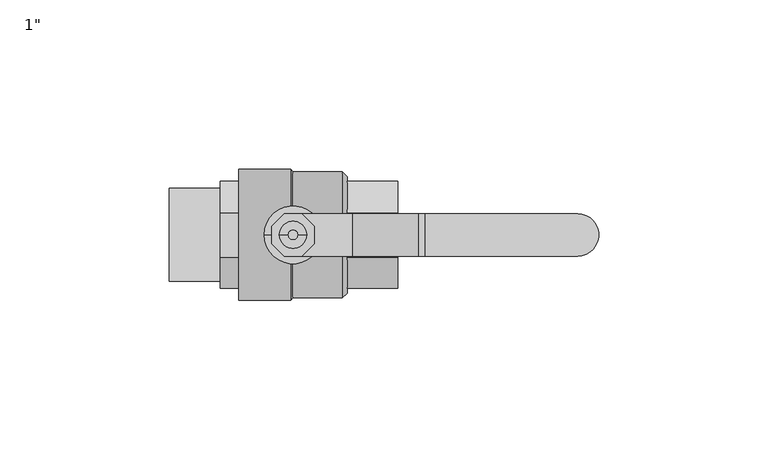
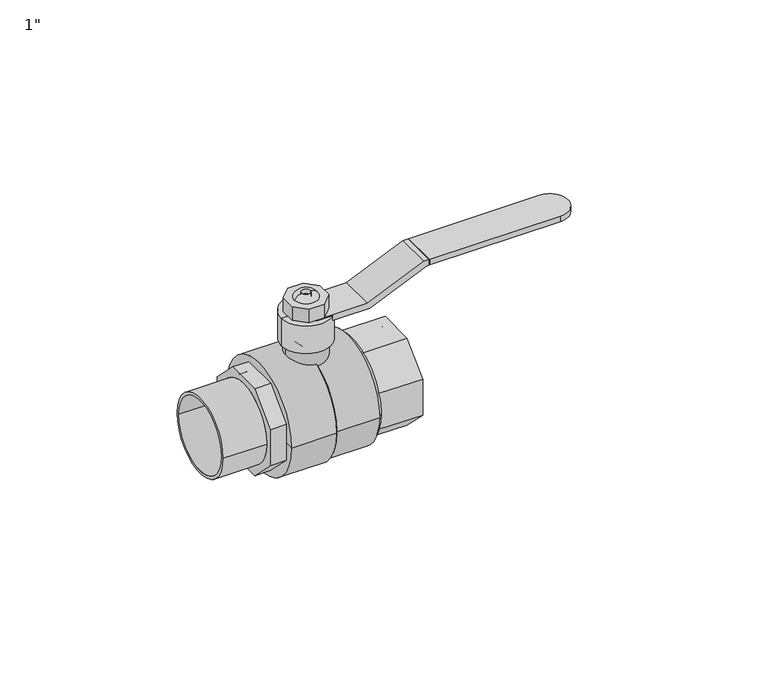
"""IFC4 building model written with IfcOpenShell, lengths in millimetres: pipe fitting geometry."""

from ifc_helpers import new_model, si_unit, point, frame, frame_2d, origin, origin_with_axes, origin_2d, place, context, project, spatial, polyline, circle_curve, ellipse_curve, trimmed, segment, composite_curve, outline, extrude, source, transform, mapped, element, save
from ifc_brep_helpers import plane_surface, cylinder_surface, revolved_surface, advanced_brep


def pipe_fitting_f4c530a4(model_context):
    return source(origin(), model_context, "Body", "SolidModel", [
        extrude(outline(composite_curve([segment(trimmed(circle_curve(origin_2d(), 13.7), [point((13.7, 0.0))], [point((-13.7, 0.0))], False, "CARTESIAN"), True, "CONTINUOUS"), segment(trimmed(circle_curve(origin_2d(), 13.7), [point((-13.7, 0.0))], [point((13.7, 0.0))], False, "CARTESIAN"), True, "CONTINUOUS")], self_intersect=False), holes=[composite_curve([segment(trimmed(circle_curve(origin_2d(), 12.7), [point((12.7, 0.0))], [point((-12.7, 0.0))], True, "CARTESIAN"), True, "CONTINUOUS"), segment(trimmed(circle_curve(origin_2d(), 12.7), [point((-12.7, 0.0))], [point((12.7, 0.0))], True, "CARTESIAN"), True, "CONTINUOUS")], self_intersect=False)]), frame((-36.5, 0.0, 0.0), z_axis=(1.0, 0.0, 0.0), x_axis=(0.0, 1.0, 0.0)), (0.0, 0.0, 1.0), 15.0),
        advanced_brep(
        [(1.5, 0.0, 38.0), (-1.5, 0.0, 38.0), (-4.0, 0.0, 38.0), (4.0, 0.0, 38.0), (1.5, 0.0, 39.5), (-1.5, 0.0, 39.5)],
        [
            (0, 1, circle_curve(frame((0.0, 0.0, 38.0), z_axis=(0.0, 0.0, 1.0), x_axis=(-1.0, 0.0, 0.0)), 1.5)),
            (1, 2),
            (2, 3, circle_curve(frame((0.0, 0.0, 38.0), z_axis=(0.0, 0.0, -1.0), x_axis=(-1.0, 0.0, 0.0)), 4.0)),
            (3, 0),
            (1, 0, circle_curve(frame((0.0, 0.0, 38.0), z_axis=(0.0, 0.0, 1.0), x_axis=(-1.0, 0.0, 0.0)), 1.5)),
            (3, 2, circle_curve(frame((0.0, 0.0, 38.0), z_axis=(0.0, 0.0, -1.0), x_axis=(-1.0, 0.0, 0.0)), 4.0)),
            (4, 5, circle_curve(frame((0.0, 0.0, 39.5), z_axis=(0.0, 0.0, 1.0), x_axis=(-1.0, 0.0, 0.0)), 1.5)),
            (5, 1),
            (0, 4),
            (5, 4, circle_curve(frame((0.0, 0.0, 39.5), z_axis=(0.0, 0.0, 1.0), x_axis=(-1.0, 0.0, 0.0)), 1.5)),
            (2, 5, circle_curve(frame((-1.6606207, 0.0, 36.9343679), z_axis=(0.0, 1.0, 0.0), x_axis=(1.0, 0.0, 0.0)), 2.570655)),
            (4, 3, circle_curve(frame((1.6606207, 0.0, 36.9343679), z_axis=(0.0, 1.0, 0.0), x_axis=(-1.0, 0.0, 0.0)), 2.570655)),
        ],
        [
            plane_surface(frame((0.0, 0.0, 38.0), z_axis=(0.0, 0.0, -1.0), x_axis=(-1.0, 0.0, 0.0))),
            revolved_surface(polyline([(-1.5, 0.0, 38.0), (-1.5, 0.0, 39.5)]), (0.0, 0.0, 2223.8150031), (0.0, 0.0, -1.0)),
            revolved_surface(trimmed(ellipse_curve(frame((-1.6606207, 0.0, 36.9343679), z_axis=(0.0, -1.0, 0.0), x_axis=(1.0, 0.0, 0.0)), 2.570655, 2.570655), [point((-1.5, 0.0, 39.5))], [point((-4.0, 0.0, 38.0))], True, "CARTESIAN"), (0.0, 0.0, 2223.8150031), (0.0, 0.0, -1.0)),
        ],
        [
            (0, [[1, 2, 3, 4]]),
            (0, [[5, -4, 6, -2]]),
            (1, [[7, 8, -1, 9]]),
            (1, [[10, -9, -5, -8]]),
            (2, [[-3, 11, -7, 12]]),
            (2, [[-6, -12, -10, -11]]),
        ],
    ),
        extrude(outline(polyline([(-6.2769553, 2.6), (-2.6, 6.2769553), (2.6, 6.2769553), (6.2769553, 2.6), (6.2769553, -2.6), (2.6, -6.2769553), (-2.6, -6.2769553), (-6.2769553, -2.6), (-6.2769553, 2.6)])), frame((0.0, 0.0, 33.0), z_axis=(0.0, 0.0, 1.0), x_axis=(1.0, 0.0, 0.0)), (0.0, 0.0, 1.0), 5.0),
        extrude(outline(composite_curve([segment(trimmed(circle_curve(frame_2d((84.02, 0.0)), 6.25), [point((84.02, 6.25))], [point((84.02, -6.25))], False, "CARTESIAN"), True, "CONTINUOUS"), segment(polyline([(84.02, -6.25), (39.02, -6.25), (39.02, 6.25), (84.02, 6.25)]), True, "CONTINUOUS")], self_intersect=False)), frame((0.0, 0.0, 39.5), z_axis=(0.0, 0.0, 1.0), x_axis=(1.0, 0.0, 0.0)), (0.0, 0.0, 1.0), 2.0),
        extrude(outline(polyline([(33.0, 17.52), (33.0, 0.0), (31.0, 0.0), (31.0, 18.35), (39.5, 37.8484271), (39.5, 39.02), (41.5, 39.02), (41.5, 37.02), (33.0, 17.52)])), frame((0.0, -6.25, 0.0), z_axis=(0.0, 1.0, 0.0), x_axis=(0.0, 0.0, 1.0)), (0.0, 0.0, 1.0), 12.5),
        advanced_brep(
        [(0.0, 0.0, 23.0), (-8.5, 0.0, 23.0), (8.5, 0.0, 23.0), (8.5, 0.0, 33.0), (-8.5, 0.0, 33.0), (0.0, 0.0, 33.0)],
        [
            (0, 1),
            (1, 2, circle_curve(frame((0.0, 0.0, 23.0), z_axis=(0.0, 0.0, -1.0), x_axis=(-1.0, 0.0, 0.0)), 8.5)),
            (2, 0),
            (2, 1, circle_curve(frame((0.0, 0.0, 23.0), z_axis=(0.0, 0.0, -1.0), x_axis=(-1.0, 0.0, 0.0)), 8.5)),
            (3, 4, circle_curve(frame((0.0, 0.0, 33.0), z_axis=(0.0, 0.0, 1.0), x_axis=(-1.0, 0.0, 0.0)), 8.5)),
            (4, 5),
            (5, 3),
            (4, 3, circle_curve(frame((0.0, 0.0, 33.0), z_axis=(0.0, 0.0, 1.0), x_axis=(-1.0, 0.0, 0.0)), 8.5)),
            (1, 4),
            (3, 2),
        ],
        [
            plane_surface(frame((0.0, 0.0, 23.0), z_axis=(0.0, 0.0, -1.0), x_axis=(-1.0, 0.0, 0.0))),
            plane_surface(frame((0.0, 0.0, 33.0), z_axis=(0.0, 0.0, 1.0), x_axis=(-1.0, 0.0, 0.0))),
            cylinder_surface(frame((0.0, 0.0, 2220.1650031), z_axis=(0.0, 0.0, -1.0), x_axis=(-1.0, 0.0, 0.0)), 8.5),
        ],
        [
            (0, [[1, 2, 3]]),
            (0, [[-3, 4, -1]]),
            (1, [[5, 6, 7]]),
            (1, [[8, -7, -6]]),
            (2, [[-2, 9, -5, 10]]),
            (2, [[-4, -10, -8, -9]]),
        ],
    ),
        extrude(outline(polyline([(15.8130988, 6.55), (15.8130988, -6.55), (6.55, -15.8130988), (-6.55, -15.8130988), (-15.8130988, -6.55), (-15.8130988, 6.55), (-6.55, 15.8130988), (6.55, 15.8130988), (15.8130988, 6.55)]), holes=[composite_curve([segment(trimmed(circle_curve(origin_2d(), 13.7), [point((13.7, 0.0))], [point((-13.7, 0.0))], True, "CARTESIAN"), True, "CONTINUOUS"), segment(trimmed(circle_curve(origin_2d(), 13.7), [point((-13.7, 0.0))], [point((13.7, 0.0))], True, "CARTESIAN"), True, "CONTINUOUS")], self_intersect=False)]), frame((-21.5, 0.0, 0.0), z_axis=(1.0, 0.0, 0.0), x_axis=(0.0, 1.0, 0.0)), (0.0, 0.0, 1.0), 5.5),
        extrude(outline(composite_curve([segment(trimmed(circle_curve(origin_2d(), 7.0), [point((-7.0, 0.0))], [point((7.0, 0.0))], False, "CARTESIAN"), True, "CONTINUOUS"), segment(trimmed(circle_curve(origin_2d(), 7.0), [point((7.0, 0.0))], [point((-7.0, 0.0))], False, "CARTESIAN"), True, "CONTINUOUS")], self_intersect=False)), origin_with_axes(), (0.0, 0.0, 1.0), 23.0),
        extrude(outline(polyline([(15.8130988, 6.55), (15.8130988, -6.55), (6.55, -15.8130988), (-6.55, -15.8130988), (-15.8130988, -6.55), (-15.8130988, 6.55), (-6.55, 15.8130988), (6.55, 15.8130988), (15.8130988, 6.55)]), holes=[composite_curve([segment(trimmed(circle_curve(origin_2d(), 13.7), [point((13.7, 0.0))], [point((-13.7, 0.0))], True, "CARTESIAN"), True, "CONTINUOUS"), segment(trimmed(circle_curve(origin_2d(), 13.7), [point((-13.7, 0.0))], [point((13.7, 0.0))], True, "CARTESIAN"), True, "CONTINUOUS")], self_intersect=False)]), frame((16.0, 0.0, 0.0), z_axis=(1.0, 0.0, 0.0), x_axis=(0.0, 1.0, 0.0)), (0.0, 0.0, 1.0), 15.0),
        advanced_brep(
        [(-16.0, -19.34, 0.0), (-16.0, 19.34, 0.0), (-0.7042017, 19.34, 0.0), (-0.7042017, -19.34, 0.0), (-16.0, 0.0, 0.0), (16.0, -17.2157864, 0.0), (16.0, 17.2157864, 0.0), (16.0, 0.0, 0.0), (0.0, -18.63, 0.0), (0.0, 18.63, 0.0), (14.5857864, 18.63, 0.0), (14.5857864, -18.63, 0.0)],
        [
            (0, 1, circle_curve(frame((-16.0, 0.0, 0.0), z_axis=(1.0, 0.0, 0.0), x_axis=(0.0, 1.0, 0.0)), 19.34)),
            (1, 2),
            (2, 3, circle_curve(frame((-0.7042017, 0.0, 0.0), z_axis=(-1.0, 0.0, 0.0), x_axis=(0.0, 1.0, 0.0)), 19.34)),
            (3, 0),
            (1, 0, circle_curve(frame((-16.0, 0.0, 0.0), z_axis=(1.0, 0.0, 0.0), x_axis=(0.0, 1.0, 0.0)), 19.34)),
            (3, 2, circle_curve(frame((-0.7042017, 0.0, 0.0), z_axis=(-1.0, 0.0, 0.0), x_axis=(0.0, 1.0, 0.0)), 19.34)),
            (4, 1),
            (0, 4),
            (5, 6, circle_curve(frame((16.0, 0.0, 0.0), z_axis=(1.0, 0.0, 0.0), x_axis=(0.0, 1.0, 0.0)), 17.2157864)),
            (6, 7),
            (7, 5),
            (6, 5, circle_curve(frame((16.0, 0.0, 0.0), z_axis=(1.0, 0.0, 0.0), x_axis=(0.0, 1.0, 0.0)), 17.2157864)),
            (8, 9, circle_curve(frame((0.0, 0.0, 0.0), z_axis=(1.0, 0.0, 0.0), x_axis=(0.0, 1.0, 0.0)), 18.63)),
            (9, 10),
            (10, 11, circle_curve(frame((14.5857864, 0.0, 0.0), z_axis=(-1.0, 0.0, 0.0), x_axis=(0.0, 1.0, 0.0)), 18.63)),
            (11, 8),
            (9, 8, circle_curve(frame((0.0, 0.0, 0.0), z_axis=(1.0, 0.0, 0.0), x_axis=(0.0, 1.0, 0.0)), 18.63)),
            (11, 10, circle_curve(frame((14.5857864, 0.0, 0.0), z_axis=(-1.0, 0.0, 0.0), x_axis=(0.0, 1.0, 0.0)), 18.63)),
            (10, 6),
            (5, 11),
            (2, 9),
            (8, 3),
        ],
        [
            cylinder_surface(frame((2005.2869923, 0.0, 0.0), z_axis=(-1.0, 0.0, 0.0), x_axis=(0.0, 1.0, 0.0)), 19.34),
            plane_surface(frame((-16.0, 0.0, 0.0), z_axis=(-1.0, 0.0, 0.0), x_axis=(0.0, 1.0, 0.0))),
            plane_surface(frame((16.0, 0.0, 0.0), z_axis=(1.0, 0.0, 0.0), x_axis=(0.0, 1.0, 0.0))),
            cylinder_surface(frame((2005.2869923, 0.0, 0.0), z_axis=(-1.0, 0.0, 0.0), x_axis=(0.0, 1.0, 0.0)), 18.63),
            revolved_surface(polyline([(16.0, 17.2157864, 0.0), (14.5857864, 18.63, 0.0)]), (2005.2869923, 0.0, 0.0), (-1.0, 0.0, 0.0)),
            revolved_surface(polyline([(0.0, 18.63, 0.0), (-0.7042017, 19.34, 0.0)]), (2005.2869923, 0.0, 0.0), (-1.0, 0.0, 0.0)),
        ],
        [
            (0, [[1, 2, 3, 4]]),
            (0, [[5, -4, 6, -2]]),
            (1, [[7, -1, 8]]),
            (1, [[-8, -5, -7]]),
            (2, [[9, 10, 11]]),
            (2, [[12, -11, -10]]),
            (3, [[13, 14, 15, 16]]),
            (3, [[17, -16, 18, -14]]),
            (4, [[-15, 19, -9, 20]]),
            (4, [[-18, -20, -12, -19]]),
            (5, [[-3, 21, -13, 22]]),
            (5, [[-6, -22, -17, -21]]),
        ],
    ),
    ])


if __name__ == "__main__":
    model = new_model("IFC4")
    model_context = context("Model", 3, world=origin())
    ifc_project = project(units=[si_unit("LENGTHUNIT", "METRE", prefix="MILLI")], contexts=[model_context])
    site = spatial("IfcSite", under=ifc_project)
    building = spatial("IfcBuilding", under=site)
    placement = place(None, origin())
    pipe_fitting_shape = pipe_fitting_f4c530a4(model_context)
    element("IfcPipeFitting", 1, ObjectType="AmancoWavin_Gas_Válvula Esfera MF Alavanca : 1\"", at=placement, inside=building, context=model_context, shape_type="MappedRepresentation", body=[
        mapped(pipe_fitting_shape, transform((0.0, 0.0, 0.0), x_axis=(1.0, 0.0, 0.0), y_axis=(0.0, 1.0, 0.0), z_axis=(0.0, 0.0, 1.0))),
    ])
    save(model, "model.ifc")
